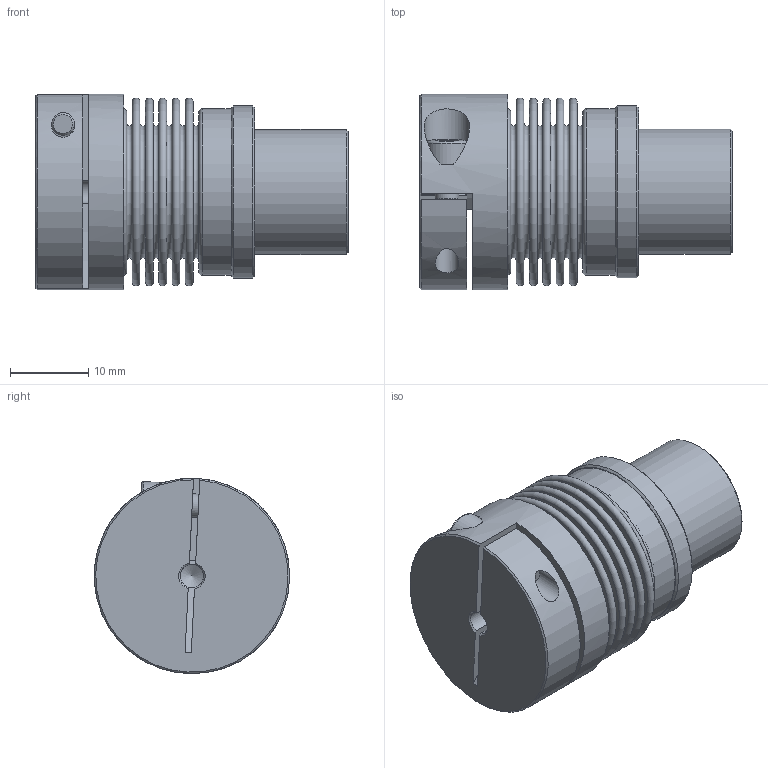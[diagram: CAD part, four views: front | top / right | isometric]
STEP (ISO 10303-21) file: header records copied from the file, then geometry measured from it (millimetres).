
FILE_DESCRIPTION( ( 'Unknown' ), '1' );
FILE_NAME( 'K:/Konstruktion/cad kunden/3D - Daten/KB3/KB3-20-28.stp', 'Unknown', ( 'Unknown' ), ( 'Unknown' ), 'PSStep 16.0.42', 'Unknown', ' ' );
FILE_SCHEMA( ( 'AUTOMOTIVE_DESIGN { 1 0 10303 214 1 1 1 1 }' ) );
Length unit declared in the file: millimetre
Products named in the file (6): Assem1; KN20_Standard_4; Socket Head Cap Screw_DIN_DIN 912 M3 x 10 --- 10N_4; BK20_Standard_1; Socket Head Cap Screw_DIN_DIN 912 M4 x 16 --- 16N; SN20
Assembly tree (5 placements, depth 2):
  Assem1
    KN20_Standard_4
    Socket Head Cap Screw_DIN_DIN 912 M3 x 10 --- 10N_4
    BK20_Standard_1
    Socket Head Cap Screw_DIN_DIN 912 M4 x 16 --- 16N
    SN20
Bounding box: 40 x 24.97 x 25 mm (x, y, z)
Volume: 10572.3 mm3; surface area: 12120.9 mm2
Topology: 5 solids, 5 shells, 131 faces, 263 edges, 168 vertices
Faces by surface type: plane 69, torus 30, cylinder 21, cone 11
Full cylindrical faces by diameter (mm): 3 x3, 3.2 x1, 4 x1, 4.5 x1, 5.5 x1, 7 x1, 16 x1, 21 x3, 21.3 x2, 22 x1, 25 x1
Entity records: 4321 total; most frequent: CARTESIAN_POINT 621, DIRECTION 571, ORIENTED_EDGE 386, AXIS2_PLACEMENT_3D 252, EDGE_LOOP 223, EDGE_CURVE 193, FACE_OUTER_BOUND 176, VERTEX_POINT 166
